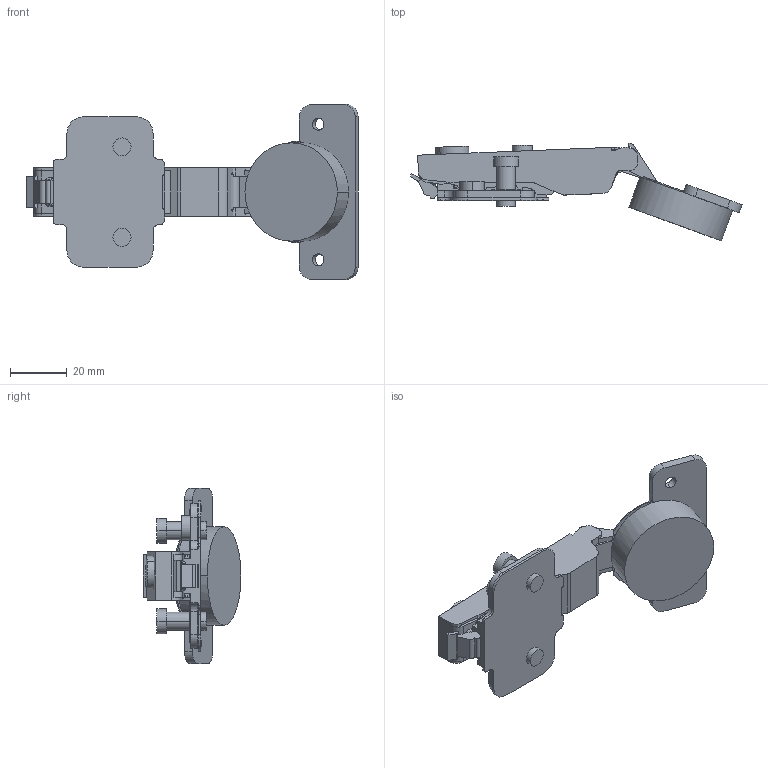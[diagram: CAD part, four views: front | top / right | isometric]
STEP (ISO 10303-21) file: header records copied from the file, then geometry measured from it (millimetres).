
FILE_DESCRIPTION (( 'STEP AP203' ), '1' );
FILE_NAME ('C82A676F+80T02TQ-DTC3Dopen.STEP', '2023-04-13T08:34:14', ( 'Windows 蚚誧' ), ( '' ), 'SwSTEP 2.0', 'SolidWorks 2018', '' );
FILE_SCHEMA (( 'CONFIG_CONTROL_DESIGN' ));
Length unit declared in the file: millimetre
Products named in the file (1): C82A676F+80T02TQ-DTC3Dopen
Bounding box: 117.45 x 34.62 x 61.96 mm (x, y, z)
Volume: 40477.2 mm3; surface area: 15217.7 mm2
Topology: 1 solids, 1 shells, 488 faces, 1382 edges, 900 vertices
Faces by surface type: cylinder 219, plane 218, torus 39, bspline 8, sphere 4
Entity records: 16288 total; most frequent: CARTESIAN_POINT 3407, ORIENTED_EDGE 2756, DIRECTION 2699, EDGE_CURVE 1378, AXIS2_PLACEMENT_3D 953, VERTEX_POINT 900, VECTOR 793, LINE 793
